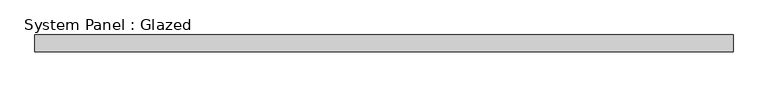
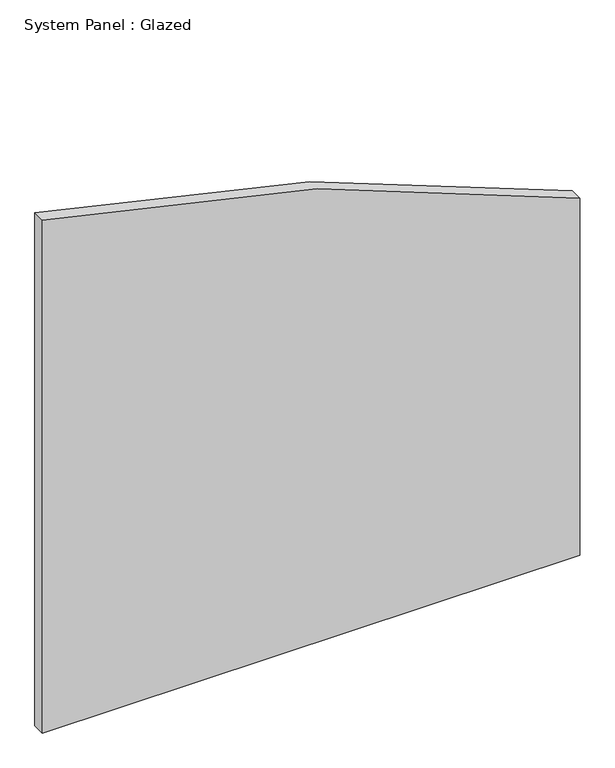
"""IFC4 building model written with IfcOpenShell, lengths in millimetres: plate geometry, System Panel : Glazed."""

from ifc_helpers import new_model, si_unit, point, frame, frame_2d, origin, place, context, project, spatial, polyline, circle_curve, trimmed, segment, composite_curve, outline, extrude, source, transform, mapped, element, save


def system_panel_glazed_35b13dc1(model_context):
    return source(origin(), model_context, "Body", "SweptSolid", [
        extrude(outline(composite_curve([segment(polyline([(0.0, -534.3071428), (0.0, 534.3071428), (749.884866, 534.3071428)]), True, "CONTINUOUS"), segment(trimmed(circle_curve(frame_2d((-2774.95, -1132.1142856)), 3898.9), [point((749.884866, 534.3071428))], [point((1077.8474032, -534.3071428))], False, "CARTESIAN"), True, "CONTINUOUS"), segment(polyline([(1077.8474032, -534.3071428), (0.0, -534.3071428)]), True, "CONTINUOUS")], self_intersect=False)), frame((0.0, 19.05, 0.0), z_axis=(0.0, 1.0, 0.0), x_axis=(0.0, 0.0, 1.0)), (0.0, 0.0, 1.0), 25.4),
    ])


if __name__ == "__main__":
    model = new_model("IFC4")
    model_context = context("Model", 3, world=origin())
    ifc_project = project(units=[si_unit("LENGTHUNIT", "METRE", prefix="MILLI")], contexts=[model_context])
    site = spatial("IfcSite", under=ifc_project)
    building = spatial("IfcBuilding", under=site)
    placement = place(None, origin())
    system_panel_glazed_shape = system_panel_glazed_35b13dc1(model_context)
    element("IfcPlate", 1, ObjectType="System Panel : Glazed", at=placement, inside=building, context=model_context, shape_type="MappedRepresentation", body=[
        mapped(system_panel_glazed_shape, transform((0.0, 0.0, 0.0), x_axis=(1.0, 0.0, 0.0), y_axis=(0.0, 1.0, 0.0), z_axis=(0.0, 0.0, 1.0))),
    ])
    save(model, "model.ifc")
